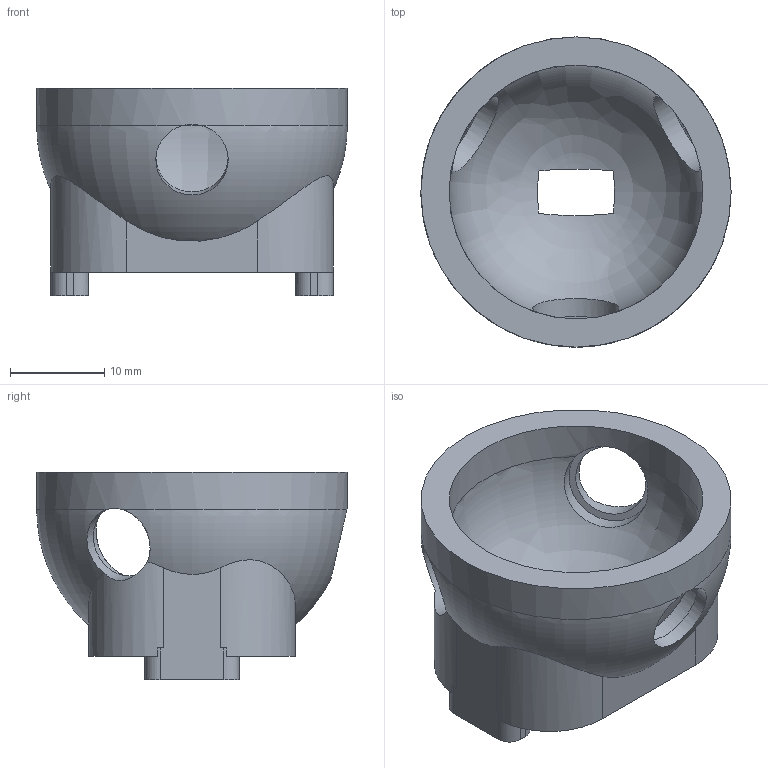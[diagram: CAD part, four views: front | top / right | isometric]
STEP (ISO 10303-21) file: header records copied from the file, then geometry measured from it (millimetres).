
FILE_DESCRIPTION(('Open CASCADE Model'),'2;1');
FILE_NAME('Open CASCADE Shape Model','2026-05-31T19:43:05',('Author'),( 'Open CASCADE'),'Open CASCADE STEP processor 7.6','Open CASCADE 7.6' ,'Unknown');
FILE_SCHEMA(('AP242_MANAGED_MODEL_BASED_3D_ENGINEERING_MIM_LF. {1 0 10303 442 1 1 4 }'));
Length unit declared in the file: millimetre
Products named in the file (1): Open CASCADE STEP translator 7.6 4
Bounding box: 33 x 33 x 22.1 mm (x, y, z)
Volume: 6234.6 mm3; surface area: 4606.8 mm2
Topology: 1 solids, 1 shells, 80 faces, 236 edges, 155 vertices
Faces by surface type: plane 43, cylinder 28, bspline 4, revolution 3, cone 2
Full cylindrical faces by diameter (mm): 2.05 x2, 7.7 x3, 9.2 x3, 27 x1, 33 x1
Entity records: 10554 total; most frequent: CARTESIAN_POINT 6102, DIRECTION 769, ORIENTED_EDGE 468, PCURVE 468, DEFINITIONAL_REPRESENTATION 468, LINE 420, VECTOR 420, EDGE_CURVE 234
